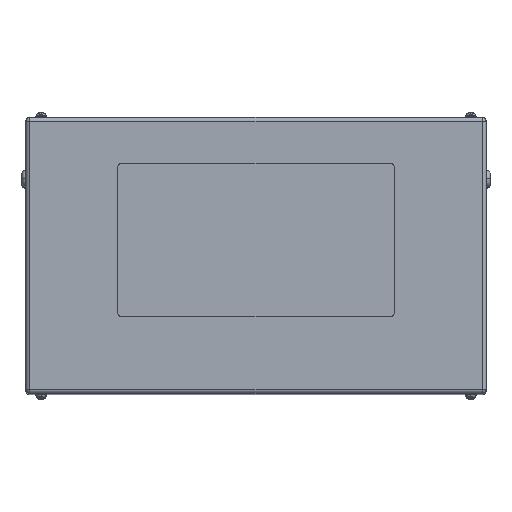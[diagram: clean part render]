
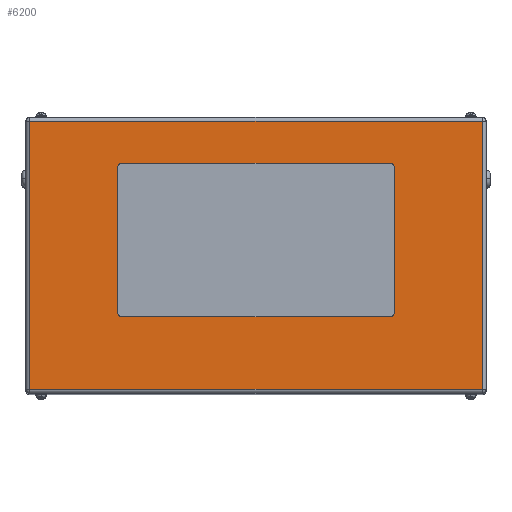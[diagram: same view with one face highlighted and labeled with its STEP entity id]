
A CAD part, top view. The second image highlights one B-rep face of the part: STEP entity #6200.
In plain terms, the highlighted planar face has unit normal (0, 0, 1).
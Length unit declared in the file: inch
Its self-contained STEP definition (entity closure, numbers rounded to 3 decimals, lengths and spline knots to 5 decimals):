
#195 = EDGE_CURVE ( 'NONE', #11381, #21357, #21949, .T. ) ;
#727 = CARTESIAN_POINT ( 'NONE',  ( 8.75, -3.75, 22. ) ) ;
#879 = EDGE_CURVE ( 'NONE', #7079, #14395, #21921, .T. ) ;
#982 = EDGE_CURVE ( 'NONE', #19364, #3317, #12101, .T. ) ;
#1017 = CARTESIAN_POINT ( 'NONE',  ( 8.75, 5.75, 22. ) ) ;
#1078 = LINE ( 'NONE', #20000, #12245 ) ;
#1095 = CIRCLE ( 'NONE', #17183, 0.25 ) ;
#1154 = ORIENTED_EDGE ( 'NONE', *, *, #10001, .T. ) ;
#1187 = CARTESIAN_POINT ( 'NONE',  ( -8.75, -4., 22. ) ) ;
#1330 = VECTOR ( 'NONE', #22490, 39.37008 ) ;
#1489 = DIRECTION ( 'NONE',  ( 0., 0., -1. ) ) ;
#1571 = CARTESIAN_POINT ( 'NONE',  ( -8.75, 5.75, 22. ) ) ;
#2490 = LINE ( 'NONE', #19606, #9587 ) ;
#3057 = VECTOR ( 'NONE', #22309, 39.37008 ) ;
#3317 = VERTEX_POINT ( 'NONE', #8615 ) ;
#3531 = CARTESIAN_POINT ( 'NONE',  ( 14.734, 9., 22. ) ) ;
#3847 = VERTEX_POINT ( 'NONE', #9377 ) ;
#4019 = DIRECTION ( 'NONE',  ( 0., 0., 1. ) ) ;
#4054 = VERTEX_POINT ( 'NONE', #16145 ) ;
#4828 = VERTEX_POINT ( 'NONE', #5131 ) ;
#4911 = CARTESIAN_POINT ( 'NONE',  ( 9., 5.75, 22. ) ) ;
#5131 = CARTESIAN_POINT ( 'NONE',  ( 8.75, 6., 22. ) ) ;
#5433 = DIRECTION ( 'NONE',  ( 0., 0., 1. ) ) ;
#5893 = EDGE_CURVE ( 'NONE', #4828, #11381, #2490, .T. ) ;
#6125 = VERTEX_POINT ( 'NONE', #18686 ) ;
#6200 = ADVANCED_FACE ( 'NONE', ( #11989, #13963 ), #20876, .F. ) ;
#6394 = CARTESIAN_POINT ( 'NONE',  ( -8.75, 6., 22. ) ) ;
#6503 = CARTESIAN_POINT ( 'NONE',  ( 15., 8.734, 22. ) ) ;
#6743 = ORIENTED_EDGE ( 'NONE', *, *, #9099, .F. ) ;
#6871 = DIRECTION ( 'NONE',  ( 0., -1., 0. ) ) ;
#7079 = VERTEX_POINT ( 'NONE', #22129 ) ;
#7648 = LINE ( 'NONE', #9592, #12409 ) ;
#7988 = DIRECTION ( 'NONE',  ( 0., 0., 1. ) ) ;
#8440 = DIRECTION ( 'NONE',  ( -1., 0., 0. ) ) ;
#8615 = CARTESIAN_POINT ( 'NONE',  ( 9., 5.75, 22. ) ) ;
#9099 = EDGE_CURVE ( 'NONE', #15296, #20847, #1095, .T. ) ;
#9316 = EDGE_CURVE ( 'NONE', #21357, #15296, #7648, .T. ) ;
#9377 = CARTESIAN_POINT ( 'NONE',  ( -14.734, -8.734, 22. ) ) ;
#9401 = CARTESIAN_POINT ( 'NONE',  ( -8.75, -3.75, 22. ) ) ;
#9514 = EDGE_CURVE ( 'NONE', #3317, #4828, #12805, .T. ) ;
#9521 = DIRECTION ( 'NONE',  ( 1., 0., 0. ) ) ;
#9587 = VECTOR ( 'NONE', #18113, 39.37008 ) ;
#9592 = CARTESIAN_POINT ( 'NONE',  ( -9., 5.75, 22. ) ) ;
#10001 = EDGE_CURVE ( 'NONE', #4054, #7079, #13984, .T. ) ;
#10591 = DIRECTION ( 'NONE',  ( 1., 0., 0. ) ) ;
#10686 = AXIS2_PLACEMENT_3D ( 'NONE', #12098, #1489, #8440 ) ;
#10690 = EDGE_LOOP ( 'NONE', ( #18492, #6743, #17254, #22553, #22171, #15818, #19093, #11240 ) ) ;
#11240 = ORIENTED_EDGE ( 'NONE', *, *, #15262, .F. ) ;
#11381 = VERTEX_POINT ( 'NONE', #6394 ) ;
#11984 = AXIS2_PLACEMENT_3D ( 'NONE', #1571, #5433, #10591 ) ;
#11989 = FACE_BOUND ( 'NONE', #10690, .T. ) ;
#12098 = CARTESIAN_POINT ( 'NONE',  ( 15., 9., 22. ) ) ;
#12101 = LINE ( 'NONE', #4911, #1330 ) ;
#12245 = VECTOR ( 'NONE', #9521, 39.37008 ) ;
#12409 = VECTOR ( 'NONE', #18469, 39.37008 ) ;
#12730 = DIRECTION ( 'NONE',  ( 1., 0., 0. ) ) ;
#12805 = CIRCLE ( 'NONE', #15766, 0.25 ) ;
#13245 = CARTESIAN_POINT ( 'NONE',  ( 9., -3.75, 22. ) ) ;
#13963 = FACE_OUTER_BOUND ( 'NONE', #21596, .T. ) ;
#13984 = LINE ( 'NONE', #3531, #17994 ) ;
#14027 = CARTESIAN_POINT ( 'NONE',  ( -8.75, -4., 22. ) ) ;
#14395 = VERTEX_POINT ( 'NONE', #21639 ) ;
#14734 = CIRCLE ( 'NONE', #17285, 0.25 ) ;
#14766 = DIRECTION ( 'NONE',  ( -1., 0., 0. ) ) ;
#14832 = ORIENTED_EDGE ( 'NONE', *, *, #16557, .T. ) ;
#14995 = DIRECTION ( 'NONE',  ( -1., 0., 0. ) ) ;
#15262 = EDGE_CURVE ( 'NONE', #6125, #19364, #14734, .T. ) ;
#15296 = VERTEX_POINT ( 'NONE', #16690 ) ;
#15590 = VECTOR ( 'NONE', #14766, 39.37008 ) ;
#15624 = LINE ( 'NONE', #22636, #17003 ) ;
#15766 = AXIS2_PLACEMENT_3D ( 'NONE', #1017, #7988, #14995 ) ;
#15818 = ORIENTED_EDGE ( 'NONE', *, *, #9514, .F. ) ;
#16145 = CARTESIAN_POINT ( 'NONE',  ( 14.734, -8.734, 22. ) ) ;
#16557 = EDGE_CURVE ( 'NONE', #3847, #4054, #1078, .T. ) ;
#16690 = CARTESIAN_POINT ( 'NONE',  ( -9., -3.75, 22. ) ) ;
#17003 = VECTOR ( 'NONE', #6871, 39.37008 ) ;
#17005 = LINE ( 'NONE', #1187, #3057 ) ;
#17183 = AXIS2_PLACEMENT_3D ( 'NONE', #9401, #19862, #12730 ) ;
#17254 = ORIENTED_EDGE ( 'NONE', *, *, #9316, .F. ) ;
#17285 = AXIS2_PLACEMENT_3D ( 'NONE', #727, #4019, #21638 ) ;
#17994 = VECTOR ( 'NONE', #21001, 39.37008 ) ;
#18113 = DIRECTION ( 'NONE',  ( -1., 0., 0. ) ) ;
#18469 = DIRECTION ( 'NONE',  ( 0., -1., 0. ) ) ;
#18492 = ORIENTED_EDGE ( 'NONE', *, *, #18765, .F. ) ;
#18686 = CARTESIAN_POINT ( 'NONE',  ( 8.75, -4., 22. ) ) ;
#18765 = EDGE_CURVE ( 'NONE', #20847, #6125, #17005, .T. ) ;
#18799 = EDGE_CURVE ( 'NONE', #14395, #3847, #15624, .T. ) ;
#19093 = ORIENTED_EDGE ( 'NONE', *, *, #982, .F. ) ;
#19364 = VERTEX_POINT ( 'NONE', #13245 ) ;
#19606 = CARTESIAN_POINT ( 'NONE',  ( -8.75, 6., 22. ) ) ;
#19645 = CARTESIAN_POINT ( 'NONE',  ( -9., 5.75, 22. ) ) ;
#19862 = DIRECTION ( 'NONE',  ( 0., 0., 1. ) ) ;
#20000 = CARTESIAN_POINT ( 'NONE',  ( 14.734, -8.734, 22. ) ) ;
#20157 = ORIENTED_EDGE ( 'NONE', *, *, #18799, .T. ) ;
#20847 = VERTEX_POINT ( 'NONE', #14027 ) ;
#20876 = PLANE ( 'NONE',  #10686 ) ;
#21001 = DIRECTION ( 'NONE',  ( 0., 1., 0. ) ) ;
#21357 = VERTEX_POINT ( 'NONE', #19645 ) ;
#21596 = EDGE_LOOP ( 'NONE', ( #20157, #14832, #1154, #21819 ) ) ;
#21638 = DIRECTION ( 'NONE',  ( 1., 0., 0. ) ) ;
#21639 = CARTESIAN_POINT ( 'NONE',  ( -14.734, 8.734, 22. ) ) ;
#21819 = ORIENTED_EDGE ( 'NONE', *, *, #879, .T. ) ;
#21921 = LINE ( 'NONE', #6503, #15590 ) ;
#21949 = CIRCLE ( 'NONE', #11984, 0.25 ) ;
#22129 = CARTESIAN_POINT ( 'NONE',  ( 14.734, 8.734, 22. ) ) ;
#22171 = ORIENTED_EDGE ( 'NONE', *, *, #5893, .F. ) ;
#22309 = DIRECTION ( 'NONE',  ( 1., 0., 0. ) ) ;
#22490 = DIRECTION ( 'NONE',  ( 0., 1., 0. ) ) ;
#22553 = ORIENTED_EDGE ( 'NONE', *, *, #195, .F. ) ;
#22636 = CARTESIAN_POINT ( 'NONE',  ( -14.734, 9., 22. ) ) ;
